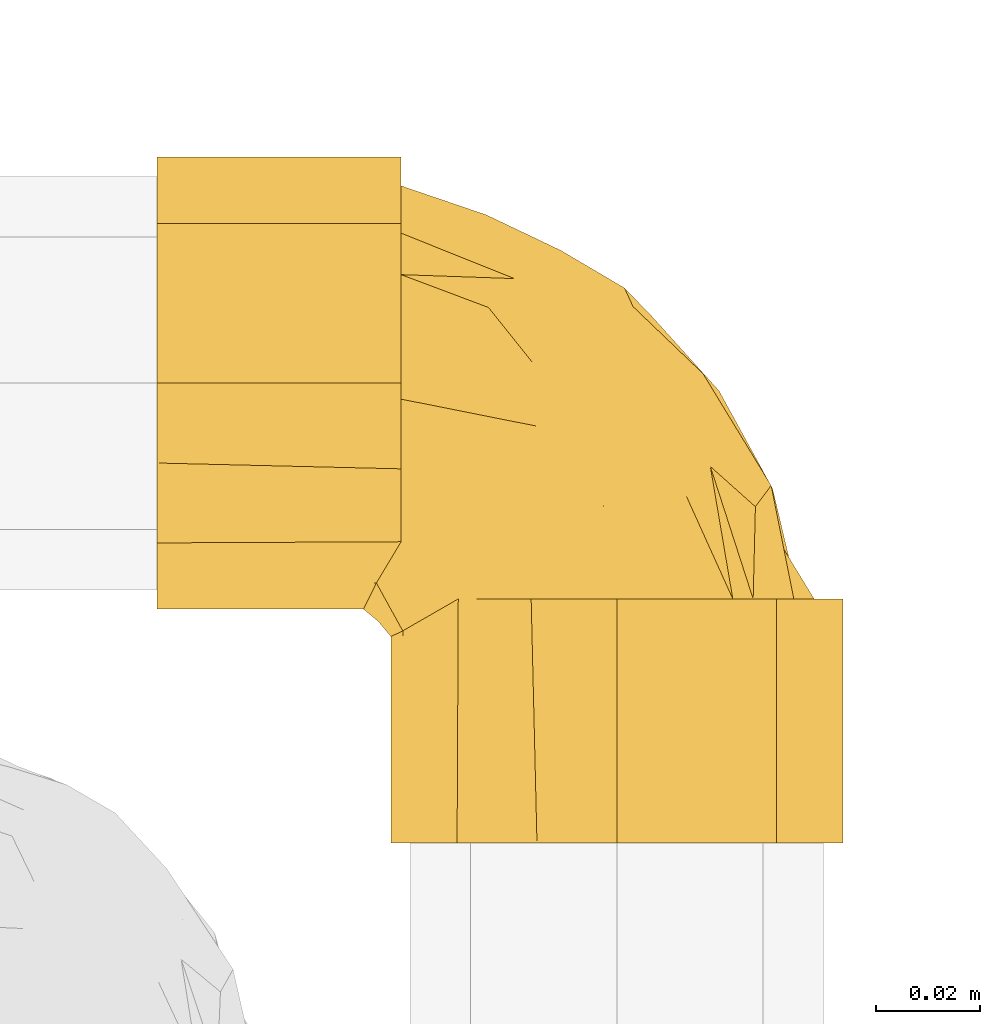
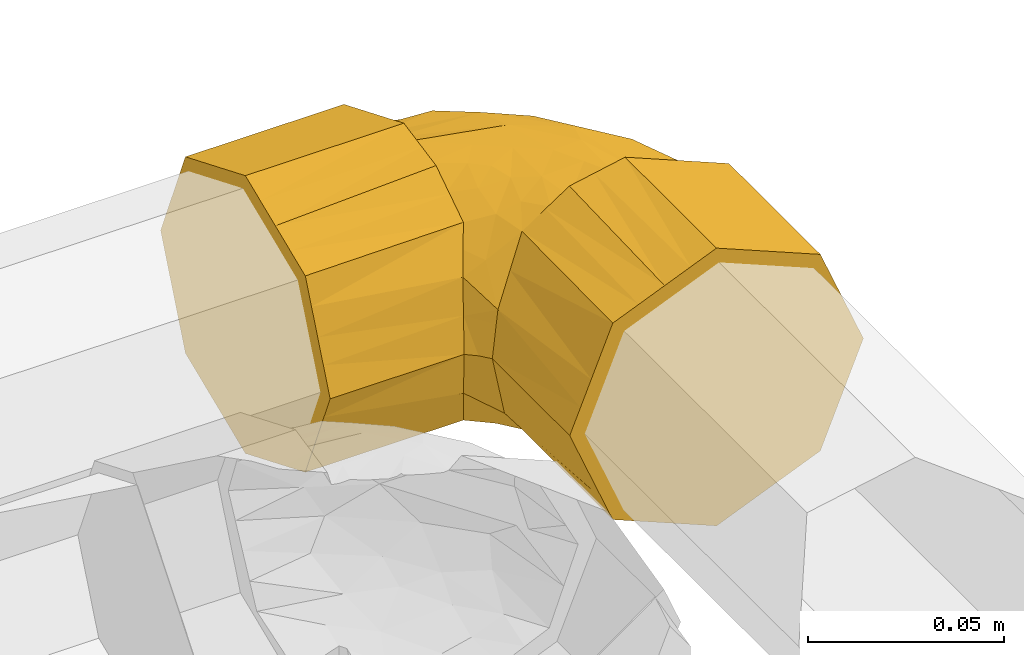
# One storey, part 188 of 652: 1 covering.
"""IFC2X3 building model written with IfcOpenShell, lengths in millimetres."""

import ifcopenshell
import ifcopenshell.guid

model = None  # the IFC model being written
_history = None  # IfcOwnerHistory: only IFC2X3 demands one
_inside = {}  # id of a spatial element -> (the spatial element, [elements in it])
_under = {}  # id of a project, library or spatial element -> (it, [spatial elements below it])
_declared = {}  # id of a project -> (the project, [libraries it declares])
_typed = {}  # id of a type object -> (the type object, [elements of that type])
_made_of = {}  # id of a material, layer set ... -> (it, [elements and type objects made of it])


def new_model(schema):
    """Start an empty IFC model of exactly this schema.

    Asked for "IFC4X3", IfcOpenShell would pick the latest addendum, in which some entities
    have other attributes; the version numbers below select the first issue.
    IFC2X3 requires an IfcOwnerHistory on every rooted entity: one is made here for all.
    """
    global model, _history
    if schema == "IFC4X3":
        model = ifcopenshell.file(schema_version=(4, 3, 0, 0))
    else:
        model = ifcopenshell.file(schema=schema)
    _inside.clear()
    _under.clear()
    _declared.clear()
    _typed.clear()
    _made_of.clear()
    _history = None
    if model.schema == "IFC2X3":
        org = make("IfcOrganization", Name="unknown")
        user = make(
            "IfcPersonAndOrganization",
            ThePerson=make("IfcPerson", FamilyName="unknown"),
            TheOrganization=org,
        )
        app = make(
            "IfcApplication",
            ApplicationDeveloper=org,
            Version="unknown",
            ApplicationFullName="unknown",
            ApplicationIdentifier="unknown",
        )
        _history = make(
            "IfcOwnerHistory",
            OwningUser=user,
            OwningApplication=app,
            ChangeAction="ADDED",
            CreationDate=0,
        )
    return model


def make(cls, **values):
    """One entity of the class cls with the attributes given. An attribute that is None is left unset."""
    return model.create_entity(
        cls, **{name: value for name, value in values.items() if value is not None}
    )


def entity(cls, *values):
    """Any entity or typed value of the class cls, its attributes in the order of the schema. None: left unset."""
    e = model.create_entity(cls)
    for i, value in enumerate(values):
        if value is not None:
            e[i] = value
    return e


def rooted(cls, **values):
    """An entity with a GlobalId (a new one), such as an element, a storey or a relation."""
    return make(cls, GlobalId=ifcopenshell.guid.new(), OwnerHistory=_history, **values)


def si_unit(unit_type, name, prefix=None):
    """IfcSIUnit, for example si_unit("LENGTHUNIT", "METRE", prefix="MILLI")."""
    return make("IfcSIUnit", UnitType=unit_type, Prefix=prefix, Name=name)


def converted_unit(unit_type, name, factor, base, dimensions=None, offset=None):
    """IfcConversionBasedUnit, such as the inch: factor (a typed value) times the base unit."""
    return make(
        "IfcConversionBasedUnit"
        if offset is None
        else "IfcConversionBasedUnitWithOffset",
        ConversionOffset=offset,
        Dimensions=None
        if dimensions is None
        else entity("IfcDimensionalExponents", *dimensions),
        UnitType=unit_type,
        Name=name,
        ConversionFactor=make(
            "IfcMeasureWithUnit", ValueComponent=factor, UnitComponent=base
        ),
    )


def assignment(units):
    """IfcUnitAssignment: the units of a project."""
    return None if units is None else make("IfcUnitAssignment", Units=units)


def point(xyz):
    """IfcCartesianPoint."""
    return None if xyz is None else make("IfcCartesianPoint", Coordinates=xyz)


def direction(xyz):
    """IfcDirection."""
    return None if xyz is None else make("IfcDirection", DirectionRatios=xyz)


def frame(location, z_axis=None, x_axis=None):
    """IfcAxis2Placement3D, a coordinate frame: its origin and axes. An axis left out is left unset."""
    return make(
        "IfcAxis2Placement3D",
        Location=point(location),
        Axis=direction(z_axis),
        RefDirection=direction(x_axis),
    )


def origin():
    """The frame at (0, 0, 0) with its axes left unset."""
    return frame((0.0, 0.0, 0.0))


def place(relative_to, where):
    """IfcLocalPlacement: puts the frame where relative to a parent placement (None: the world)."""
    return make(
        "IfcLocalPlacement", PlacementRelTo=relative_to, RelativePlacement=where
    )


def context(
    kind, dimensions, precision=None, world=None, true_north=None, identifier=None
):
    """IfcGeometricRepresentationContext, for example the 3D "Model" context."""
    return make(
        "IfcGeometricRepresentationContext",
        ContextIdentifier=identifier,
        ContextType=kind,
        CoordinateSpaceDimension=dimensions,
        Precision=precision,
        WorldCoordinateSystem=world,
        TrueNorth=true_north,
    )


def subcontext(parent, identifier, kind, view, scale=None):
    """IfcGeometricRepresentationSubContext, for example "Body" below "Model"."""
    return make(
        "IfcGeometricRepresentationSubContext",
        ContextIdentifier=identifier,
        ContextType=kind,
        ParentContext=parent,
        TargetScale=scale,
        TargetView=view,
    )


def project(units=None, contexts=None):
    """IfcProject with its units and contexts."""
    return rooted(
        "IfcProject",
        Name="project",
        RepresentationContexts=contexts,
        UnitsInContext=assignment(units),
    )


def spatial(cls, under=None, at=None, **own):
    """A site, building, storey or space (cls), placed at a placement, below another one or the project."""
    s = rooted(cls, ObjectPlacement=at, **own)
    if under is not None:
        _under.setdefault(under.id(), (under, []))[1].append(s)
    return s


def faces_of(points, faces, orient=None, outer=None):
    """IfcFace entities. A face is a list of loops; a loop is a list of indices into points, from 0.

    orient and outer hold one flag for each loop. By default every Orientation is true, the
    first loop of a face is its IfcFaceOuterBound and the others are IfcFaceBound.
    """
    made = []
    for i, loops in enumerate(faces):
        bounds = []
        for j, loop in enumerate(loops):
            is_outer = j == 0 if outer is None else outer[i][j]
            bounds.append(
                make(
                    "IfcFaceOuterBound" if is_outer else "IfcFaceBound",
                    Bound=make("IfcPolyLoop", Polygon=[points[k] for k in loop]),
                    Orientation=True if orient is None else orient[i][j],
                )
            )
        made.append(make("IfcFace", Bounds=bounds))
    return made


def faceted_brep(points, faces, orient=None, outer=None, voids=None):
    """IfcFacetedBrep: a solid bounded by flat faces; with voids (closed shells), ...WithVoids."""
    shared = [point(p) for p in points]
    hull = make("IfcClosedShell", CfsFaces=faces_of(shared, faces, orient, outer))
    if voids is None:
        return make("IfcFacetedBrep", Outer=hull)
    return make(
        "IfcFacetedBrepWithVoids",
        Outer=hull,
        Voids=[
            make(cls, CfsFaces=faces_of(shared, fs, o, b)) for cls, fs, o, b in voids
        ],
    )


def shape(context_of_items, identifier, shape_type, items):
    """IfcShapeRepresentation: the items that make up one representation, for example the "Body"."""
    return make(
        "IfcShapeRepresentation",
        ContextOfItems=context_of_items,
        RepresentationIdentifier=identifier,
        RepresentationType=shape_type,
        Items=items,
    )


def material(Name=None, Category=None):
    """IfcMaterial."""
    return make("IfcMaterial", Name=Name, Category=Category)


def made_of(thing, what):
    """Note that an element or type object is made of a material, layer set ...; save() writes the relation."""
    if what is not None:
        _made_of.setdefault(what.id(), (what, []))[1].append(thing)
    return thing


def type_object(cls, material=None, **own):
    """A type object (cls), such as IfcWallType, which elements share."""
    return made_of(rooted(cls, **own), material)


def element(
    cls,
    number,
    at=None,
    inside=None,
    cuts=None,
    type_object=None,
    material=None,
    context=None,
    identifier="Body",
    shape_type=None,
    held_by="IfcProductDefinitionShape",
    body=None,
    shapes=None,
    **own,
):
    """One element of the class cls, such as IfcWall. Its Tag is "e" and its number.

    at: its placement. inside: the storey or other place that contains it. cuts: it is an
    opening in that element (IfcRelVoidsElement). A single representation is given by context,
    identifier, shape_type and body (its items); several are given by shapes. held_by: the class
    of the entity that holds the representations. save() writes the other relations.
    """
    e = rooted(cls, Tag="e%d" % number, ObjectPlacement=at, **own)
    if body is not None:
        shapes = [shape(context, identifier, shape_type, body)]
    if shapes is not None:
        e.Representation = make(held_by, Representations=shapes)
    if inside is not None:
        _inside.setdefault(inside.id(), (inside, []))[1].append(e)
    if cuts is not None:
        rooted(
            "IfcRelVoidsElement", RelatingBuildingElement=cuts, RelatedOpeningElement=e
        )
    if type_object is not None:
        _typed.setdefault(type_object.id(), (type_object, []))[1].append(e)
    return made_of(e, material)


def aggregate(whole, parts):
    """IfcRelAggregates: a whole, such as a stair, and the parts it consists of."""
    return rooted("IfcRelAggregates", RelatingObject=whole, RelatedObjects=parts)


def save(model, path):
    """Write the relations noted so far, then the file.

    IfcRelAggregates (storeys below a building ...), IfcRelContainedInSpatialStructure (elements
    in a storey), IfcRelDefinesByType, IfcRelAssociatesMaterial and IfcRelDeclares: one each for
    every whole, place, type object, material and project.
    """
    for whole, parts in _under.values():
        aggregate(whole, parts)
    for where, things in _inside.values():
        rooted(
            "IfcRelContainedInSpatialStructure",
            RelatedElements=things,
            RelatingStructure=where,
        )
    for kind, things in _typed.values():
        rooted("IfcRelDefinesByType", RelatedObjects=things, RelatingType=kind)
    for what, things in _made_of.values():
        rooted("IfcRelAssociatesMaterial", RelatedObjects=things, RelatingMaterial=what)
    for by, libraries in _declared.values():
        rooted("IfcRelDeclares", RelatingContext=by, RelatedDefinitions=libraries)
    model.write(path)


model = new_model("IFC2X3")

# Units and contexts
model_context = context("Model", 3, precision=0.01, world=frame((0.0, 0.0, 308426.39999999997)), true_north=direction((6.123233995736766e-17, 1.0)))
plan_context = context("Plan", 3, precision=0.01, world=frame((0.0, 0.0, 308426.39999999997)), true_north=direction((6.123233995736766e-17, 1.0)))
body_context = subcontext(model_context, "Body", "Model", "MODEL_VIEW")
ifc_project = project(units=[si_unit("LENGTHUNIT", "METRE", prefix="MILLI"), si_unit("AREAUNIT", "SQUARE_METRE"), si_unit("VOLUMEUNIT", "CUBIC_METRE"), converted_unit("PLANEANGLEUNIT", "DEGREE", entity("IfcPlaneAngleMeasure", 0.017453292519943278), si_unit("PLANEANGLEUNIT", "RADIAN"), dimensions=[0, 0, 0, 0, 0, 0, 0])], contexts=[model_context, plan_context])

# Site, building, storey
site_placement = place(None, origin())
site = spatial("IfcSite", under=ifc_project, at=site_placement, Name="Default", CompositionType="ELEMENT")
building_placement = place(site_placement, origin())
building = spatial("IfcBuilding", under=site, at=building_placement, CompositionType="ELEMENT")
storey_placement = place(building_placement, frame((0.0, 0.0, 1730.6999999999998)))
storey = spatial("IfcBuildingStorey", under=building, at=storey_placement, Name="EG_Produktion_FFB", CompositionType="ELEMENT", Elevation=1730.6999999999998)

# Covering
ifc_material = material(Name="Dämmung - Armaflex-Schlauch")
covering_type = type_object("IfcCoveringType", Name="Rohrdämmung außen:Armaflex-Schlauch", PredefinedType="INSULATION")
covering_placement = place(storey_placement, frame((72666.88225000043, 40786.88224999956, 2609.8621969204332)))
element("IfcCovering", 1, at=covering_placement, inside=storey, type_object=covering_type, material=ifc_material, Name="Rohrdämmung außen:Armaflex-Schlauch", ObjectType="Rohrdämmung außen:Armaflex-Schlauch", PredefinedType="INSULATION", context=body_context, shape_type="Brep", body=[
    faceted_brep([(88.1177500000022, 46.75225000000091, -88.22327223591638), (79.90225228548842, 46.75225000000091, -86.60451682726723), (71.68675457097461, 46.75225000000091, -84.98576141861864), (64.70149015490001, 46.75225000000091, -80.37354935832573), (57.716225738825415, 46.75225000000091, -75.76133729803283), (66.55955447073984, 46.75225000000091, -79.62862730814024), (75.40288320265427, 46.75225000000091, -83.49591731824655), (85.04966346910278, 46.75225000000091, -84.54677223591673), (92.72698145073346, 46.75225000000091, -81.01733375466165), (100.40429943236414, 46.75225000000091, -77.48789527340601), (108.63450810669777, 46.75225000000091, -73.70428030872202), (116.8647167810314, 46.75225000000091, -69.9206653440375), (120.01964159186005, 46.75225000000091, -61.219696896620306), (122.97667814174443, 46.75225000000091, -53.064484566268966), (125.9337146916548, 46.75225000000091, -44.909272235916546), (122.03577136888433, 46.75225000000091, -37.09633037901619), (118.13782804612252, 46.75225000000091, -29.283388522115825), (114.23988472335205, 46.75225000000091, -21.470446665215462), (110.34194140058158, 46.75225000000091, -13.657504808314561), (101.29094031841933, 46.75225000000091, -10.656617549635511), (93.17030189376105, 46.75225000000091, -7.964194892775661), (85.04966346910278, 46.75225000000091, -5.271772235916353), (81.34938260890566, 46.75225000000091, -6.070267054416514), (77.64910174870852, 46.75225000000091, -6.868761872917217), (71.91234130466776, 46.75225000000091, -8.106714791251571), (66.17558086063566, 46.75225000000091, -9.344667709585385), (57.716225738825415, 46.75225000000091, -14.05720717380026), (64.70149015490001, 46.75225000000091, -9.444995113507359), (71.68675457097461, 46.75225000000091, -4.832783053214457), (79.06082167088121, 46.75225000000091, -3.3798204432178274), (88.1177500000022, 46.75225000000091, -1.595272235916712), (96.48128679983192, 46.75225000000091, -5.059562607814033), (103.43156156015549, 46.75225000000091, -7.9384606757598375), (111.08846734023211, 46.75225000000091, -11.11005489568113), (118.74537312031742, 46.75225000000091, -14.281649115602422), (121.91696734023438, 46.75225000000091, -21.93855489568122), (125.08856156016, 46.75225000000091, -29.595460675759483), (127.96746015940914, 46.75225000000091, -36.54573671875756), (131.43175000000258, 46.75225000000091, -44.909272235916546), (127.96745966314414, 46.75225000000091, -53.27280895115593), (125.08856156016, 46.75225000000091, -60.22308379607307), (121.91696734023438, 46.75225000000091, -67.87998957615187), (118.74537312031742, 46.75225000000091, -75.53689535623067), (111.08846734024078, 46.75225000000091, -78.70848957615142), (103.43156156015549, 46.75225000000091, -81.88008379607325), (96.48128540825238, 46.75225000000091, -84.75898244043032), (131.43175000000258, 0.0, -44.909272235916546), (128.26015578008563, 0.0, -37.252366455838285), (125.08856156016, 0.0, -29.595460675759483), (121.91696734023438, 0.0, -21.93855489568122), (118.74537312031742, 0.0, -14.281649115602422), (111.79509868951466, 0.0, -11.402751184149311), (104.84482425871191, 0.0, -8.52385325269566), (96.48128712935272, 0.0, -5.059562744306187), (88.1177500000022, 0.0, -1.595272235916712), (80.46084421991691, 0.0, -4.766866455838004), (72.80393843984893, 0.0, -7.9384606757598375), (65.14703265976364, 0.0, -11.11005489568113), (57.490126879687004, 0.0, -14.281649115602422), (54.31853265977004, 0.0, -21.93855489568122), (51.14693843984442, 0.0, -29.595460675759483), (47.975344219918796, 0.0, -37.252366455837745), (44.803750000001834, 0.0, -44.909272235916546), (48.26803976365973, 0.0, -53.27280756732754), (51.14693843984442, 0.0, -60.22308379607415), (54.31853265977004, 0.0, -67.87998957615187), (57.490126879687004, 0.0, -75.53689535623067), (65.14703265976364, 0.0, -78.70848957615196), (72.80393843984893, 0.0, -81.88008379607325), (80.46084421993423, 0.0, -85.05167801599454), (88.1177500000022, 0.0, -88.22327223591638), (95.77465578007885, 0.0, -85.05167801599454), (103.43156156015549, 0.0, -81.88008379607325), (111.08846734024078, 0.0, -78.70848957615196), (118.74537312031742, 0.0, -75.53689535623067), (121.91696734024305, 0.0, -67.87998957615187), (125.08856156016, 0.0, -60.22308379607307), (128.26015578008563, 0.0, -52.56617801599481), (47.07645465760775, 40.63540735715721, -31.06316546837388), (46.390187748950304, 40.303936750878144, -35.244142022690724), (44.803750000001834, 39.53767878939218, -44.909272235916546), (52.396340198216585, 43.693828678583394, -22.56018632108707), (47.307090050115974, 40.77882270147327, -55.01684165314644), (49.810430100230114, 42.01996661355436, -65.12441107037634), (53.763327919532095, 44.3861083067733, -70.44287418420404), (46.75225000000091, 88.1177500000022, -88.22327223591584), (46.75225000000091, 96.48128620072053, -84.75898211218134), (46.75225000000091, 104.84482240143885, -81.29469198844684), (46.75225000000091, 111.7950977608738, -78.41579367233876), (46.75225000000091, 118.74537312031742, -75.53689535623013), (46.75225000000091, 121.91696734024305, -67.87998957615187), (46.75225000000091, 125.08856156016, -60.22308379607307), (46.75225000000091, 127.96746022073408, -53.27280760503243), (46.75225000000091, 131.43175000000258, -44.909272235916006), (46.75225000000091, 127.96745974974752, -36.54573572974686), (46.75225000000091, 125.08856156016, -29.595460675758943), (46.75225000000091, 121.91696734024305, -21.93855489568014), (46.75225000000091, 118.74537312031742, -14.28164911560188), (46.75225000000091, 111.08846734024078, -11.110054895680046), (46.75225000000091, 103.43156156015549, -7.938460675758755), (46.752250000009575, 96.48128586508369, -5.059562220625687), (46.75225000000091, 88.1177500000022, -1.5952722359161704), (46.75225000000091, 79.06082006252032, -3.3798187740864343), (46.75225000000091, 71.68677149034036, -4.832776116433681), (46.75225000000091, 64.70149861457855, -9.444991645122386), (46.75225000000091, 57.71622573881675, -14.057207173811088), (46.75225000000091, 66.55955447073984, -10.189917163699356), (46.75225000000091, 75.40288320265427, -6.3226271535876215), (46.75225000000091, 85.04966346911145, -5.271772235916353), (46.75225000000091, 93.00342679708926, -8.928298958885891), (46.75225000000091, 100.95719012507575, -12.584825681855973), (46.75225000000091, 108.91095345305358, -16.241352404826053), (46.75225000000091, 116.86471678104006, -19.897879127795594), (46.75225000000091, 121.39921573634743, -32.4035756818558), (46.75225000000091, 122.976677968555, -36.754059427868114), (46.75225000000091, 125.93371469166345, -44.909272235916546), (46.75225000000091, 122.035771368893, -52.722214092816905), (46.75225000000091, 118.13782804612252, -60.535155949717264), (46.75225000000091, 114.2398847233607, -68.34809780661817), (46.75225000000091, 110.34194140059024, -76.16103966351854), (46.75225000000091, 97.69580243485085, -80.35390594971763), (46.75225000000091, 85.04966346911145, -84.54677223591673), (46.75225000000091, 81.34938217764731, -83.74827732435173), (46.75225000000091, 77.64910088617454, -82.94978241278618), (46.75225000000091, 71.91234087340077, -81.7118295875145), (46.75225000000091, 66.17558086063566, -80.47387676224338), (46.75225000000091, 57.71622573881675, -75.76133729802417), (46.75225000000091, 64.70149861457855, -80.37355282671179), (46.75225000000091, 71.68677149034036, -84.98576835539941), (46.75225000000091, 79.06082129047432, -86.43872593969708), (0.0, 44.803750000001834, -44.909272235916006), (0.0, 48.26803976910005, -36.54573689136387), (0.0, 51.14693843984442, -29.595460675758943), (0.0, 54.31853265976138, -21.93855489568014), (0.0, 57.490126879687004, -14.28164911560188), (0.0, 65.14703265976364, -11.110054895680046), (0.0, 72.80393843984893, -7.938460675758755), (0.0, 80.46084421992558, -4.766866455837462), (0.0, 88.1177500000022, -1.5952722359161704), (0.0, 95.77465578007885, -4.766866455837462), (0.0, 103.43156156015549, -7.938460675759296), (0.0, 111.08846734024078, -11.110054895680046), (0.0, 118.74537312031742, -14.28164911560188), (0.0, 121.62427109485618, -21.231923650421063), (0.0, 124.50316906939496, -28.182198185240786), (0.0, 127.96745953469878, -36.54573521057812), (0.0, 131.43175000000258, -44.909272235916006), (0.0, 128.26015578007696, -52.56617801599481), (0.0, 125.08856156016, -60.22308379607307), (0.0, 121.91696734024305, -67.87998957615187), (0.0, 118.74537312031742, -75.53689535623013), (0.0, 111.08846734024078, -78.70848957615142), (0.0, 103.43156156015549, -81.88008379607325), (0.0, 95.77465578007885, -85.05167801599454), (0.0, 88.1177500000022, -88.22327223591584), (0.0, 80.46084421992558, -85.05167801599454), (0.0, 72.80393843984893, -81.88008379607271), (0.0, 65.14703265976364, -78.70848957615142), (0.0, 57.490126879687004, -75.53689535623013), (0.0, 54.31853265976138, -67.87998957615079), (0.0, 51.14693843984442, -60.22308379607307), (0.0, 47.97534421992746, -52.56617801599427), (39.5376787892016, 44.803750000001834, -44.909272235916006), (40.778822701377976, 47.30709005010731, -34.801702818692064), (42.01996661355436, 49.810430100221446, -24.694133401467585), (44.3861083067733, 53.76332791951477, -19.375670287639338), (40.63540735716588, 47.076454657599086, -58.75537900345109), (40.30393673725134, 46.39018772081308, -54.57440227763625), (43.693828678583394, 52.396340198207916, -67.2583581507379), (88.73429544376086, 74.01999786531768, -8.72536112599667), (71.80233442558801, 92.25250320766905, -9.463919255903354), (72.73171129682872, 79.88012577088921, -6.190713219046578), (101.46918686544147, 66.38050195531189, -12.527264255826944), (106.10858534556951, 81.39388521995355, -25.55863499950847), (104.62433945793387, 89.94328275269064, -35.536590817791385), (94.1957332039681, 96.00570682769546, -26.09588238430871), (86.6221419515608, 91.23223447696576, -15.17460337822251), (114.66824963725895, 64.42758016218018, -24.48702608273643), (85.54000769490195, 64.65714810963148, -6.1294935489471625), (77.34212049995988, 113.56925852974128, -36.56453509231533), (63.108838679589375, 120.355997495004, -36.60747455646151), (65.4844163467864, 117.26951448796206, -30.129712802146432), (117.6810750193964, 68.47941466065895, -34.91108025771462), (106.03030708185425, 72.14375295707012, -18.57361946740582), (76.51750923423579, 63.332343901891, -5.271772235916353), (68.47704441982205, 108.15356104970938, -18.729445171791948), (63.49534266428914, 102.62059617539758, -12.344103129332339), (116.84576107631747, 61.65182754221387, -44.909272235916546), (91.22297922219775, 102.77672050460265, -33.3205444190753), (89.58190023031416, 106.35056016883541, -44.909272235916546), (68.16707511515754, 116.14213743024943, -44.909272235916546), (64.60703401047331, 117.76990778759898, -44.909272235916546), (107.75780746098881, 76.55140508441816, -44.909272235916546), (96.83815184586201, 87.27700719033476, -19.992770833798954), (98.66985384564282, 91.45098262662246, -44.909272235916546), (79.9119665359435, 108.0485537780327, -27.047505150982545), (84.1118101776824, 99.90633679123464, -20.450199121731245), (53.17889625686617, 80.36065574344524, -5.271772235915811), (59.60554251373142, 75.67164801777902, -5.271772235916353), (61.63487961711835, 74.1910036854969, -5.271772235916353), (68.0615258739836, 69.50199595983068, -5.271772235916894), (80.78358635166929, 55.04229695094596, -5.271772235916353), (83.20747781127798, 50.33207408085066, -5.271772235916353), (69.0467012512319, 56.26094341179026, -6.60293056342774), (54.5562667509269, 54.556266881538, -12.248448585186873), (61.11186851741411, 53.2102974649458, -9.802068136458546), (62.40913681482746, 60.66558050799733, -7.3177766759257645), (42.40915936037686, 42.40915936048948, -44.909272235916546), (48.01851651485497, 48.46855326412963, -20.69910858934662), (55.41828837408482, 70.60278023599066, -6.392719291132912), (54.000773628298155, 62.6871224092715, -8.946882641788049), (60.142658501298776, 66.58610433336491, -6.50150337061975), (70.80808668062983, 55.273856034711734, -83.44870733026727), (81.36529215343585, 53.91189816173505, -84.54677223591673), (48.46855326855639, 48.01851602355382, -69.11943544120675), (54.52623050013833, 54.52623062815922, -77.54084580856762), (58.74435758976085, 62.42306103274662, -82.04384465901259), (62.718384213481, 54.56229555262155, -81.03832580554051), (67.20716304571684, 62.60173052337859, -83.78700892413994), (63.60418390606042, 67.3478940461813, -83.93264694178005), (49.96557312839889, 82.70515960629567, -84.54677223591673), (53.17889625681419, 80.36065574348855, -84.54677223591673), (59.60554251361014, 75.67164801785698, -84.54677223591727), (68.06152587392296, 69.50199595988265, -84.54677223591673), (56.15572771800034, 70.02439853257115, -83.40694394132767), (76.51750923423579, 63.332343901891, -84.54677223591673), (61.63487961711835, 74.1910036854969, -84.54677223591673), (110.48953732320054, 61.51531506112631, -71.9349550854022), (102.01509896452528, 64.01585241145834, -77.69345816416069), (101.62783839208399, 76.32579608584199, -72.91689334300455), (65.1991085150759, 89.04415059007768, -82.85383626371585), (107.6992385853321, 86.64351262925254, -52.36213425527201), (95.0571033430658, 91.47388821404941, -67.85753446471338), (112.39514387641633, 69.77767080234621, -65.05516443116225), (92.18182718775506, 66.67052170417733, -81.63721611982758), (87.21494597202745, 61.929689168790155, -83.68517128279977), (64.70970163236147, 106.7224160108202, -74.09084162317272), (84.69214179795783, 93.33205701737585, -74.40030482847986), (65.71529073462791, 99.17339787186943, -78.8229110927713), (78.62112142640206, 74.7537902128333, -83.53620477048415), (81.21836113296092, 84.37906523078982, -80.46753636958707), (75.81996252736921, 113.46460816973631, -56.499519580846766), (94.93182715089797, 100.80094701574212, -52.633119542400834), (88.21869424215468, 103.97247135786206, -59.31665528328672), (117.95353214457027, 67.93556611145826, -54.80835259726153), (75.0385844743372, 106.99731105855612, -68.41532002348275), (100.5844841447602, 92.12128292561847, -59.54913999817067)], [[[0, 1, 2, 3, 4, 5, 6, 7, 8, 9, 10, 11, 12, 13, 14, 15, 16, 17, 18, 19, 20, 21, 22, 23, 24, 25, 26, 27, 28, 29, 30, 31, 32, 33, 34, 35, 36, 37, 38, 39, 40, 41, 42, 43, 44, 45]], [[46, 47, 48, 49, 50, 51, 52, 53, 54, 55, 56, 57, 58, 59, 60, 61, 62, 63, 64, 65, 66, 67, 68, 69, 70, 71, 72, 73, 74, 75, 76, 77]], [[26, 58, 57]], [[27, 26, 57]], [[61, 78, 79, 80]], [[30, 29, 55]], [[78, 60, 81]], [[29, 56, 55]], [[56, 28, 27]], [[30, 55, 54]], [[56, 27, 57]], [[56, 29, 28]], [[61, 80, 62]], [[58, 81, 60, 59]], [[61, 60, 78]], [[58, 26, 81]], [[31, 30, 54, 53, 52, 51, 50, 34, 33, 32]], [[34, 50, 49, 48, 47, 46, 38, 37, 36, 35]], [[0, 45, 44, 43, 42, 74, 73, 72, 71, 70]], [[76, 75, 74, 42, 41, 40, 39, 38, 46, 77]], [[70, 1, 0]], [[3, 2, 68]], [[82, 64, 63]], [[4, 67, 66]], [[3, 68, 67]], [[65, 83, 84, 4]], [[64, 82, 83]], [[68, 2, 69]], [[1, 70, 69]], [[63, 80, 82]], [[69, 2, 1]], [[67, 4, 3]], [[63, 62, 80]], [[65, 4, 66]], [[65, 64, 83]], [[85, 86, 87, 88, 89, 90, 91, 92, 93, 94, 95, 96, 97, 98, 99, 100, 101, 102, 103, 104, 105, 106, 107, 108, 109, 110, 111, 112, 113, 114, 115, 116, 117, 118, 119, 120, 121, 122, 123, 124, 125, 126, 127, 128, 129]], [[130, 131, 132, 133, 134, 135, 136, 137, 138, 139, 140, 141, 142, 143, 144, 145, 146, 147, 148, 149, 150, 151, 152, 153, 154, 155, 156, 157, 158, 159, 160, 161]], [[144, 143, 142, 97, 96, 95, 94, 93, 146, 145]], [[97, 142, 141, 140, 139, 138, 101, 100, 99, 98]], [[136, 102, 137]], [[105, 135, 134]], [[131, 130, 162]], [[101, 137, 102]], [[104, 136, 135]], [[104, 103, 136]], [[132, 163, 164]], [[163, 132, 131]], [[133, 164, 165, 105]], [[131, 162, 163]], [[101, 138, 137]], [[135, 105, 104]], [[102, 136, 103]], [[133, 105, 134]], [[133, 132, 164]], [[161, 162, 130]], [[85, 129, 155]], [[161, 166, 167, 162]], [[156, 128, 127]], [[166, 160, 168]], [[129, 156, 155]], [[157, 156, 127]], [[85, 155, 154]], [[158, 168, 160, 159]], [[156, 129, 128]], [[161, 160, 166]], [[158, 126, 168]], [[126, 157, 127]], [[126, 158, 157]], [[150, 89, 88, 87, 86, 85, 154, 153, 152, 151]], [[89, 150, 149, 148, 147, 146, 93, 92, 91, 90]], [[169, 170, 171]], [[19, 172, 169]], [[173, 174, 175]], [[176, 170, 169]], [[17, 16, 177]], [[21, 20, 178]], [[179, 180, 181]], [[182, 177, 16]], [[178, 20, 169]], [[19, 18, 172]], [[18, 17, 183]], [[20, 19, 169]], [[184, 178, 171]], [[185, 186, 176]], [[176, 169, 172]], [[176, 172, 183]], [[15, 187, 182]], [[183, 17, 177]], [[186, 111, 110]], [[175, 174, 188]], [[179, 189, 190, 191]], [[182, 173, 177]], [[183, 177, 173]], [[182, 16, 15]], [[173, 182, 174]], [[182, 192, 174]], [[173, 175, 193]], [[183, 172, 18]], [[188, 194, 189]], [[189, 179, 188]], [[185, 195, 181]], [[109, 170, 110]], [[185, 112, 111]], [[170, 186, 110]], [[196, 185, 176]], [[170, 109, 171]], [[171, 108, 197, 198, 199, 200, 184]], [[176, 186, 170]], [[185, 111, 186]], [[179, 181, 195]], [[108, 171, 109]], [[185, 181, 112]], [[181, 180, 113]], [[188, 179, 195]], [[188, 195, 175]], [[174, 194, 188]], [[196, 195, 185]], [[196, 176, 193]], [[115, 114, 113, 180]], [[112, 181, 113]], [[179, 191, 180]], [[115, 180, 191]], [[171, 178, 169]], [[174, 192, 194]], [[178, 184, 201, 202, 21]], [[187, 15, 14]], [[187, 192, 182]], [[193, 176, 183]], [[195, 196, 175]], [[173, 193, 183]], [[175, 196, 193]], [[203, 25, 24]], [[204, 26, 205]], [[206, 205, 203]], [[207, 80, 79]], [[203, 200, 206]], [[208, 165, 164]], [[78, 164, 163]], [[209, 107, 106]], [[204, 205, 206]], [[204, 210, 105]], [[107, 198, 197, 108]], [[210, 204, 206]], [[210, 209, 106]], [[79, 163, 207]], [[163, 79, 78]], [[207, 163, 162]], [[209, 210, 211]], [[198, 209, 211]], [[204, 165, 208]], [[78, 81, 26, 208]], [[105, 210, 106]], [[210, 206, 211]], [[208, 26, 204]], [[107, 209, 198]], [[204, 105, 165]], [[78, 208, 164]], [[26, 25, 205]], [[203, 205, 25]], [[202, 201, 24, 23, 22, 21]], [[200, 203, 184]], [[201, 203, 24]], [[203, 201, 184]], [[206, 200, 211]], [[211, 200, 199, 198]], [[207, 82, 80]], [[212, 213, 6]], [[84, 214, 215]], [[125, 216, 126]], [[7, 6, 213]], [[4, 217, 5]], [[218, 217, 216]], [[216, 217, 215]], [[167, 166, 82]], [[216, 215, 126]], [[166, 83, 82]], [[219, 218, 216]], [[215, 217, 4]], [[84, 83, 214]], [[122, 121, 220, 221, 222, 124, 123]], [[207, 162, 167]], [[218, 219, 223]], [[125, 224, 216]], [[6, 5, 212]], [[167, 82, 207]], [[166, 168, 126, 214]], [[218, 212, 217]], [[215, 4, 84]], [[214, 126, 215]], [[166, 214, 83]], [[223, 225, 218]], [[212, 218, 225]], [[212, 225, 213]], [[217, 212, 5]], [[216, 224, 219]], [[222, 224, 124]], [[219, 222, 226, 223]], [[224, 125, 124]], [[222, 219, 224]], [[227, 228, 229]], [[230, 121, 120]], [[194, 192, 231]], [[232, 233, 229]], [[234, 8, 235]], [[236, 237, 238]], [[9, 228, 10]], [[234, 235, 239]], [[240, 234, 239]], [[119, 236, 238]], [[241, 242, 243]], [[235, 7, 213, 225]], [[227, 11, 10]], [[9, 8, 234]], [[12, 233, 244]], [[227, 233, 11]], [[230, 226, 222, 221, 220, 121]], [[238, 237, 240]], [[241, 117, 116]], [[239, 230, 240]], [[239, 226, 230]], [[240, 230, 238]], [[238, 230, 120]], [[120, 119, 238]], [[118, 245, 236]], [[241, 245, 117]], [[237, 232, 229]], [[245, 243, 232]], [[229, 240, 237]], [[187, 13, 244]], [[233, 12, 11]], [[194, 231, 242]], [[246, 244, 233]], [[244, 192, 187]], [[239, 225, 223, 226]], [[228, 240, 229]], [[9, 234, 228]], [[240, 228, 234]], [[231, 244, 246]], [[194, 242, 189]], [[245, 232, 237]], [[233, 232, 246]], [[228, 227, 10]], [[233, 227, 229]], [[116, 190, 241]], [[190, 189, 241]], [[116, 115, 191, 190]], [[244, 231, 192]], [[231, 246, 242]], [[243, 242, 246]], [[241, 189, 242]], [[232, 243, 246]], [[245, 241, 243]], [[7, 235, 8]], [[225, 239, 235]], [[118, 117, 245]], [[237, 236, 245]], [[236, 119, 118]], [[13, 187, 14]], [[13, 12, 244]]]),
])

save(model, "model.ifc")
